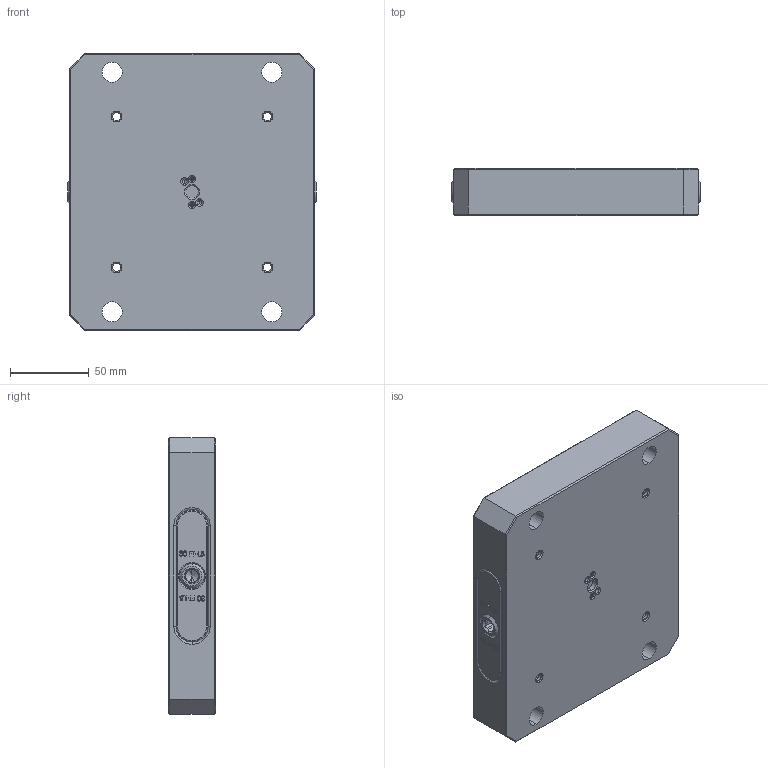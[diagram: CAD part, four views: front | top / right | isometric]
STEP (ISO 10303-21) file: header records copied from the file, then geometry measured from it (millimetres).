
FILE_DESCRIPTION (( 'STEP AP214' ), '1' );
FILE_NAME ('RL96A-67.STEP', '2019-07-29T18:19:42', ( '' ), ( '' ), 'SwSTEP 2.0', 'SolidWorks 2018', '' );
FILE_SCHEMA (( 'AUTOMOTIVE_DESIGN' ));
Length unit declared in the file: millimetre
Products named in the file (9): RL96-ASSY; SB54_FINISHED PART; 27X20.DB; RL96-3; 033.OR in Shape of Truck; RL96-2R; RL96-2L; RL96-167A; RL96A-67
Assembly tree (13 placements, depth 3):
  RL96A-67
    RL96-167A
    RL96-ASSY
      RL96-2L
      RL96-2R
      033.OR in Shape of Truck  x2
      RL96-3
      27X20.DB  x4
      SB54_FINISHED PART  x2
Bounding box: 158 x 30 x 176 mm (x, y, z)
Volume: 718203 mm3; surface area: 137170.2 mm2
Topology: 12 solids, 12 shells, 885 faces, 2185 edges, 1368 vertices
Faces by surface type: plane 417, cylinder 210, cone 113, bspline 97, torus 48
Entity records: 32983 total; most frequent: CARTESIAN_POINT 11823, ORIENTED_EDGE 4014, DIRECTION 3643, EDGE_CURVE 2007, VERTEX_POINT 1270, AXIS2_PLACEMENT_3D 1230, VECTOR 1183, LINE 1183
